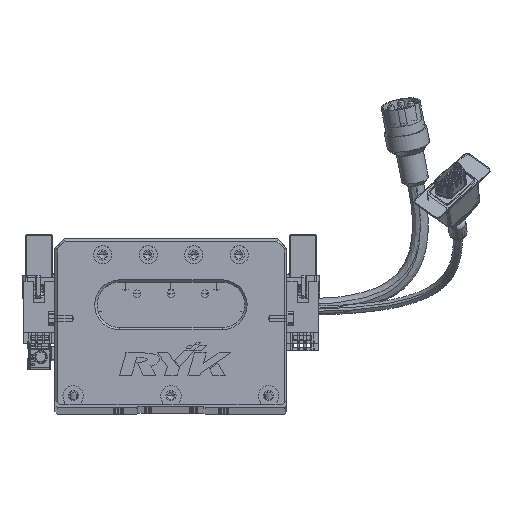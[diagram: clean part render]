
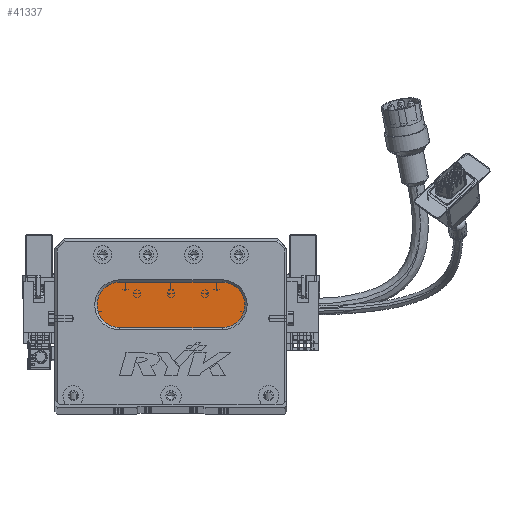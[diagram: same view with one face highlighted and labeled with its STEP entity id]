
A CAD part, top view. The second image highlights one B-rep face of the part: STEP entity #41337.
In plain terms, the highlighted planar face has unit normal (0, 0, 1) as drawn and (0, 0, -1) by its records, which use the part's own axes.
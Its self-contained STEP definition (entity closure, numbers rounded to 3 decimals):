
#652 = ORIENTED_EDGE ( 'NONE', *, *, #74411, .T. ) ;
#1024 = ORIENTED_EDGE ( 'NONE', *, *, #46912, .T. ) ;
#1135 = DIRECTION ( 'NONE',  ( -1., 0., 0. ) ) ;
#1935 = CARTESIAN_POINT ( 'NONE',  ( 18.5, 44., 13. ) ) ;
#2450 = VERTEX_POINT ( 'NONE', #1935 ) ;
#3494 = CARTESIAN_POINT ( 'NONE',  ( 28.5, 44., 13. ) ) ;
#3985 = VERTEX_POINT ( 'NONE', #25211 ) ;
#6935 = CIRCLE ( 'NONE', #55805, 10. ) ;
#10345 = DIRECTION ( 'NONE',  ( 1., 0., 0. ) ) ;
#13430 = AXIS2_PLACEMENT_3D ( 'NONE', #24804, #72017, #1135 ) ;
#14850 = CARTESIAN_POINT ( 'NONE',  ( 73.5, 44., 13. ) ) ;
#16421 = CARTESIAN_POINT ( 'NONE',  ( 73.5, 54., 13. ) ) ;
#17530 = EDGE_CURVE ( 'NONE', #2450, #32272, #6935, .T. ) ;
#17975 = CIRCLE ( 'NONE', #38062, 10. ) ;
#19170 = CARTESIAN_POINT ( 'NONE',  ( 73.5, 34., 13. ) ) ;
#19578 = DIRECTION ( 'NONE',  ( 0., 0., -1. ) ) ;
#20682 = LINE ( 'NONE', #69426, #69444 ) ;
#21240 = AXIS2_PLACEMENT_3D ( 'NONE', #14850, #45293, #56811 ) ;
#21906 = ORIENTED_EDGE ( 'NONE', *, *, #17530, .T. ) ;
#24804 = CARTESIAN_POINT ( 'NONE',  ( 73.5, 44., 13. ) ) ;
#24827 = FACE_OUTER_BOUND ( 'NONE', #68338, .T. ) ;
#25211 = CARTESIAN_POINT ( 'NONE',  ( 28.5, 34., 13. ) ) ;
#26848 = VECTOR ( 'NONE', #10345, 1000. ) ;
#30621 = CARTESIAN_POINT ( 'NONE',  ( 73.5, 54., 13. ) ) ;
#32147 = EDGE_CURVE ( 'NONE', #3985, #2450, #17975, .T. ) ;
#32272 = VERTEX_POINT ( 'NONE', #40794 ) ;
#33712 = DIRECTION ( 'NONE',  ( 0., 0., -1. ) ) ;
#37622 = ORIENTED_EDGE ( 'NONE', *, *, #47067, .T. ) ;
#38062 = AXIS2_PLACEMENT_3D ( 'NONE', #3494, #33712, #59093 ) ;
#40794 = CARTESIAN_POINT ( 'NONE',  ( 28.5, 54., 13. ) ) ;
#41337 = ADVANCED_FACE ( 'NONE', ( #24827 ), #54948, .T. ) ;
#43186 = VERTEX_POINT ( 'NONE', #19170 ) ;
#45293 = DIRECTION ( 'NONE',  ( 0., 0., -1. ) ) ;
#46912 = EDGE_CURVE ( 'NONE', #61030, #43186, #53110, .T. ) ;
#47067 = EDGE_CURVE ( 'NONE', #32272, #61030, #47463, .T. ) ;
#47463 = LINE ( 'NONE', #16421, #26848 ) ;
#53110 = CIRCLE ( 'NONE', #21240, 10. ) ;
#54948 = PLANE ( 'NONE',  #13430 ) ;
#55805 = AXIS2_PLACEMENT_3D ( 'NONE', #67298, #19578, #60768 ) ;
#56811 = DIRECTION ( 'NONE',  ( -1., 0., 0. ) ) ;
#59093 = DIRECTION ( 'NONE',  ( -1., 0., 0. ) ) ;
#60768 = DIRECTION ( 'NONE',  ( -1., 0., 0. ) ) ;
#61030 = VERTEX_POINT ( 'NONE', #30621 ) ;
#63099 = DIRECTION ( 'NONE',  ( -1., 0., 0. ) ) ;
#67298 = CARTESIAN_POINT ( 'NONE',  ( 28.5, 44., 13. ) ) ;
#68338 = EDGE_LOOP ( 'NONE', ( #1024, #652, #73858, #21906, #37622 ) ) ;
#69426 = CARTESIAN_POINT ( 'NONE',  ( 73.5, 34., 13. ) ) ;
#69444 = VECTOR ( 'NONE', #63099, 1000. ) ;
#72017 = DIRECTION ( 'NONE',  ( 0., 0., -1. ) ) ;
#73858 = ORIENTED_EDGE ( 'NONE', *, *, #32147, .T. ) ;
#74411 = EDGE_CURVE ( 'NONE', #43186, #3985, #20682, .T. ) ;
